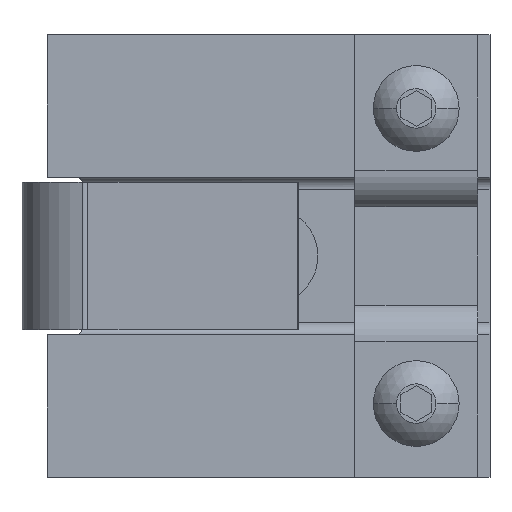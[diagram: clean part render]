
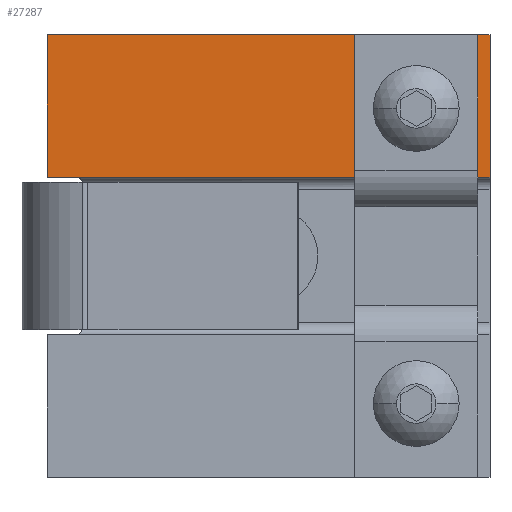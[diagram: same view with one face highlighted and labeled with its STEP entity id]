
A CAD part, left-side view. The second image highlights one B-rep face of the part: STEP entity #27287.
In plain terms, the highlighted planar face has unit normal (-1, 0, 0).
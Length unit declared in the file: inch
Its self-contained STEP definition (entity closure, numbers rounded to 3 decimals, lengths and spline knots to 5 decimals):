
#18041 = CARTESIAN_POINT ( 'NONE',  ( -1.1733, 1.13862, -1.10876 ) ) ;
#18042 = LINE ( 'NONE', #18041, #18090 ) ;
#18044 = CARTESIAN_POINT ( 'NONE',  ( -1.1733, 1.13862, 0.41624 ) ) ;
#18088 = CARTESIAN_POINT ( 'NONE',  ( -1.1733, 1.13862, 1.14124 ) ) ;
#18089 = DIRECTION ( 'NONE',  ( 0., 0., 1. ) ) ;
#18090 = VECTOR ( 'NONE', #18089, 39.37008 ) ;
#18231 = LINE ( 'NONE', #18288, #18287 ) ;
#18233 = DIRECTION ( 'NONE',  ( 0., 0., 1. ) ) ;
#18234 = VECTOR ( 'NONE', #18233, 39.37008 ) ;
#18235 = CARTESIAN_POINT ( 'NONE',  ( -1.1733, -1.11138, -1.10876 ) ) ;
#18236 = LINE ( 'NONE', #18235, #18234 ) ;
#18286 = DIRECTION ( 'NONE',  ( 0., -1., 0. ) ) ;
#18287 = VECTOR ( 'NONE', #18286, 39.37008 ) ;
#18288 = CARTESIAN_POINT ( 'NONE',  ( -1.1733, -1.11138, 1.14124 ) ) ;
#18306 = FACE_OUTER_BOUND ( 'NONE', #27295, .T. ) ;
#18307 = FACE_BOUND ( 'NONE', #27288, .T. ) ;
#18331 = CARTESIAN_POINT ( 'NONE',  ( -1.1733, -1.11138, 1.14124 ) ) ;
#18332 = CARTESIAN_POINT ( 'NONE',  ( -1.1733, -1.11138, 0.41624 ) ) ;
#18333 = DIRECTION ( 'NONE',  ( 0., 1., 0. ) ) ;
#18334 = VECTOR ( 'NONE', #18333, 39.37008 ) ;
#18335 = CARTESIAN_POINT ( 'NONE',  ( -1.1733, -1.11138, 0.41624 ) ) ;
#18336 = LINE ( 'NONE', #18335, #18334 ) ;
#18337 = DIRECTION ( 'NONE',  ( 0., 0., 1. ) ) ;
#18338 = DIRECTION ( 'NONE',  ( -1., 0., 0. ) ) ;
#18339 = CARTESIAN_POINT ( 'NONE',  ( -1.1733, -0.73638, 0.76624 ) ) ;
#18340 = AXIS2_PLACEMENT_3D ( 'NONE', #18339, #18338, #18337 ) ;
#18341 = CIRCLE ( 'NONE', #18340, 0.125 ) ;
#18342 = CARTESIAN_POINT ( 'NONE',  ( -1.1733, -0.73638, 0.64124 ) ) ;
#18343 = CARTESIAN_POINT ( 'NONE',  ( -1.1733, -0.73638, 0.89124 ) ) ;
#18344 = DIRECTION ( 'NONE',  ( 0., 0., 1. ) ) ;
#18345 = DIRECTION ( 'NONE',  ( -1., 0., 0. ) ) ;
#18346 = CARTESIAN_POINT ( 'NONE',  ( -1.1733, -0.73638, 0.76624 ) ) ;
#18347 = AXIS2_PLACEMENT_3D ( 'NONE', #18346, #18345, #18344 ) ;
#18348 = CIRCLE ( 'NONE', #18347, 0.125 ) ;
#18349 = DIRECTION ( 'NONE',  ( 0., 0., 1. ) ) ;
#18350 = DIRECTION ( 'NONE',  ( -1., 0., 0. ) ) ;
#18351 = CARTESIAN_POINT ( 'NONE',  ( -1.1733, -1.11138, -1.10876 ) ) ;
#18352 = AXIS2_PLACEMENT_3D ( 'NONE', #18351, #18350, #18349 ) ;
#18353 = PLANE ( 'NONE',  #18352 ) ;
#27226 = VERTEX_POINT ( 'NONE', #18044 ) ;
#27229 = EDGE_CURVE ( 'NONE', #27226, #27230, #18042, .T. ) ;
#27230 = VERTEX_POINT ( 'NONE', #18088 ) ;
#27274 = EDGE_CURVE ( 'NONE', #27298, #27300, #18236, .T. ) ;
#27275 = ORIENTED_EDGE ( 'NONE', *, *, #27276, .F. ) ;
#27276 = EDGE_CURVE ( 'NONE', #27230, #27300, #18231, .T. ) ;
#27277 = ORIENTED_EDGE ( 'NONE', *, *, #27229, .F. ) ;
#27287 = ADVANCED_FACE ( 'NONE', ( #18307, #18306 ), #18353, .T. ) ;
#27288 = EDGE_LOOP ( 'NONE', ( #27289, #27293 ) ) ;
#27289 = ORIENTED_EDGE ( 'NONE', *, *, #27290, .F. ) ;
#27290 = EDGE_CURVE ( 'NONE', #27291, #27292, #18348, .T. ) ;
#27291 = VERTEX_POINT ( 'NONE', #18343 ) ;
#27292 = VERTEX_POINT ( 'NONE', #18342 ) ;
#27293 = ORIENTED_EDGE ( 'NONE', *, *, #27294, .F. ) ;
#27294 = EDGE_CURVE ( 'NONE', #27292, #27291, #18341, .T. ) ;
#27295 = EDGE_LOOP ( 'NONE', ( #27296, #27299, #27275, #27277 ) ) ;
#27296 = ORIENTED_EDGE ( 'NONE', *, *, #27297, .F. ) ;
#27297 = EDGE_CURVE ( 'NONE', #27298, #27226, #18336, .T. ) ;
#27298 = VERTEX_POINT ( 'NONE', #18332 ) ;
#27299 = ORIENTED_EDGE ( 'NONE', *, *, #27274, .T. ) ;
#27300 = VERTEX_POINT ( 'NONE', #18331 ) ;
